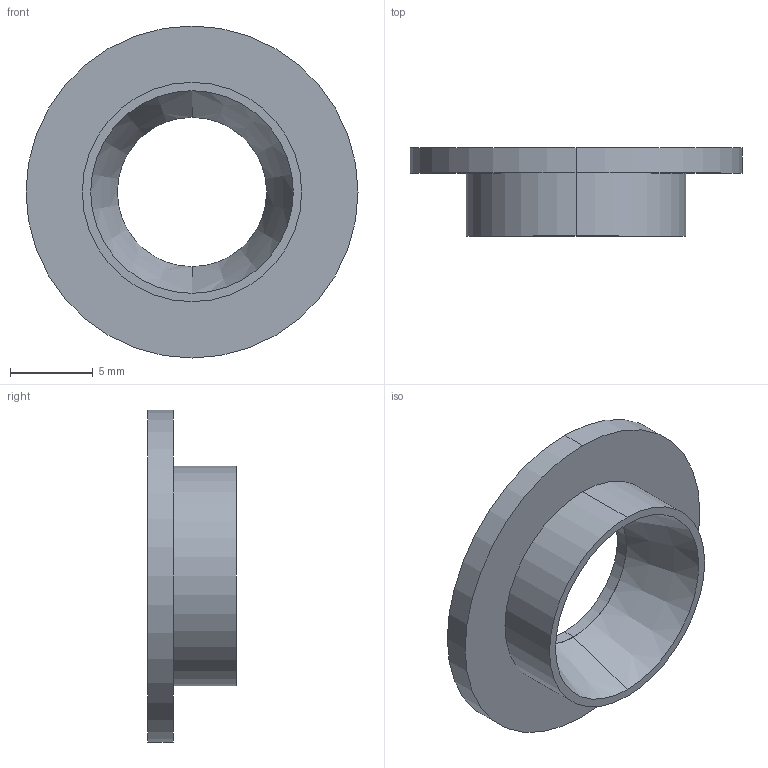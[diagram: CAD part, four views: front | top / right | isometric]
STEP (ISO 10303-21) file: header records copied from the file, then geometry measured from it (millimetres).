
FILE_DESCRIPTION (( 'STEP AP203' ), '1' );
FILE_NAME ('7-8 Washer.STEP', '2019-04-03T01:52:03', ( '' ), ( '' ), 'SwSTEP 2.0', 'SolidWorks 2017', '' );
FILE_SCHEMA (( 'CONFIG_CONTROL_DESIGN' ));
Length unit declared in the file: inch
Products named in the file (1): 7-8 Washer
Bounding box: 20.07 x 5.33 x 20.07 mm (x, y, z)
Volume: 549.5 mm3; surface area: 889.6 mm2
Topology: 1 solids, 1 shells, 12 faces, 24 edges, 16 vertices
Faces by surface type: cylinder 6, plane 4, cone 2
Entity records: 407 total; most frequent: DIRECTION 66, CARTESIAN_POINT 53, ORIENTED_EDGE 48, AXIS2_PLACEMENT_3D 29, EDGE_CURVE 24, EDGE_LOOP 16, CIRCLE 16, VERTEX_POINT 16
